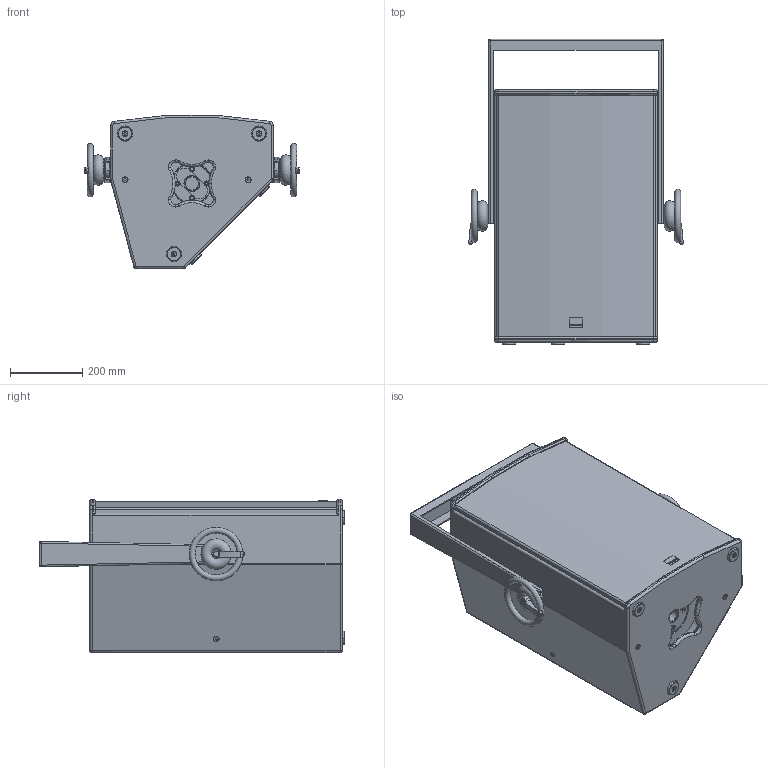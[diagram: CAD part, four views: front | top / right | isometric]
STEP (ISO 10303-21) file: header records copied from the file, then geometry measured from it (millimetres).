
FILE_DESCRIPTION (( 'STEP AP203' ), '1' );
FILE_NAME ('SEEBURG_A8_Bracket-ver.STEP', '2012-09-28T08:19:10', ( 'Fabian' ), ( '' ), 'SwSTEP 2.0', 'SolidWorks 2009', '' );
FILE_SCHEMA (( 'CONFIG_CONTROL_DESIGN' ));
Length unit declared in the file: millimetre
Products named in the file (2): SEEBURG_A8_Bracket-ver; A8_Bracket-ver
Assembly tree (1 placements, depth 2):
  SEEBURG_A8_Bracket-ver
    A8_Bracket-ver
Bounding box: 591.25 x 843 x 422.97 mm (x, y, z)
Surface area: 3817007.6 mm2 (no closed solid volume)
Topology: 0 solids, 31 shells, 970 faces, 2323 edges, 1453 vertices
Faces by surface type: cylinder 382, plane 276, torus 174, cone 111, sphere 17, bspline 10
Entity records: 33677 total; most frequent: CARTESIAN_POINT 10851, DIRECTION 4997, ORIENTED_EDGE 4598, EDGE_CURVE 2303, AXIS2_PLACEMENT_3D 2013, VERTEX_POINT 1443, EDGE_LOOP 1096, CIRCLE 1049
